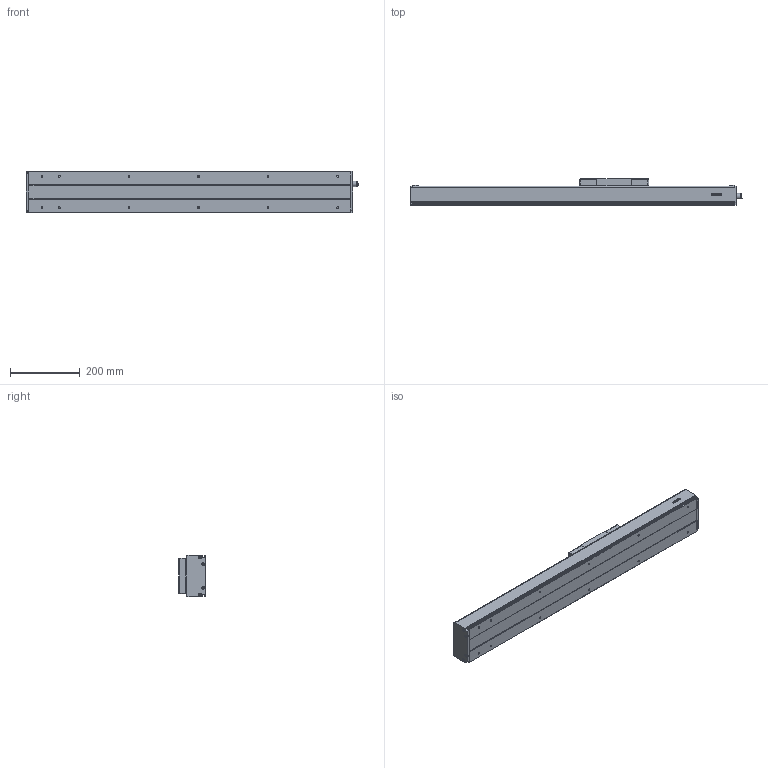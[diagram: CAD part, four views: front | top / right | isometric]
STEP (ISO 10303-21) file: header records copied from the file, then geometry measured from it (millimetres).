
FILE_DESCRIPTION(/* description */ (''),/* implementation_level */ '2;1');
FILE_NAME(/* name */ 'D:\混合母檔20191031\混和母檔\混和母檔\bin\Debug\Download\3D\KS120-5C-450AFI\KS120-5C-450AFI.stp',/* time_stamp */ '2019-11-04T14:58:45+08:00',/* author */ ('user'),/* organization */ (''),/* preprocessor_version */ 'ST-DEVELOPER v16.13',/* originating_system */ 'Autodesk Inventor 2018',/* authorisation */ '');
FILE_SCHEMA (('AUTOMOTIVE_DESIGN { 1 0 10303 214 3 1 1 }'));
Length unit declared in the file: millimetre
Products named in the file (3): KS120-5C-450AFI; KS120-FI; KS120-SL
Assembly tree (2 placements, depth 2):
  KS120-5C-450AFI
    KS120-FI
    KS120-SL
Bounding box: 954.5 x 77 x 120 mm (x, y, z)
Volume: 2357161.3 mm3; surface area: 764666.4 mm2
Topology: 4 solids, 11 shells, 995 faces, 2551 edges, 1646 vertices
Faces by surface type: plane 575, cylinder 186, bspline 136, cone 80, torus 14, sphere 4
Full cylindrical faces by diameter (mm): 2.459 x6, 3.242 x4, 4 x32, 4.3 x4, 4.5 x12, 4.917 x12, 6 x6, 7 x4, 8 x9, 8.4 x12, 10.437 x1, 12 x2, 14 x1, 15 x1, 15.538 x1, 19 x1, 28 x1, 30 x1
Entity records: 32971 total; most frequent: CARTESIAN_POINT 10606, ORIENTED_EDGE 4550, DIRECTION 4163, EDGE_CURVE 2273, VERTEX_POINT 1564, LINE 1527, VECTOR 1527, AXIS2_PLACEMENT_3D 1318
